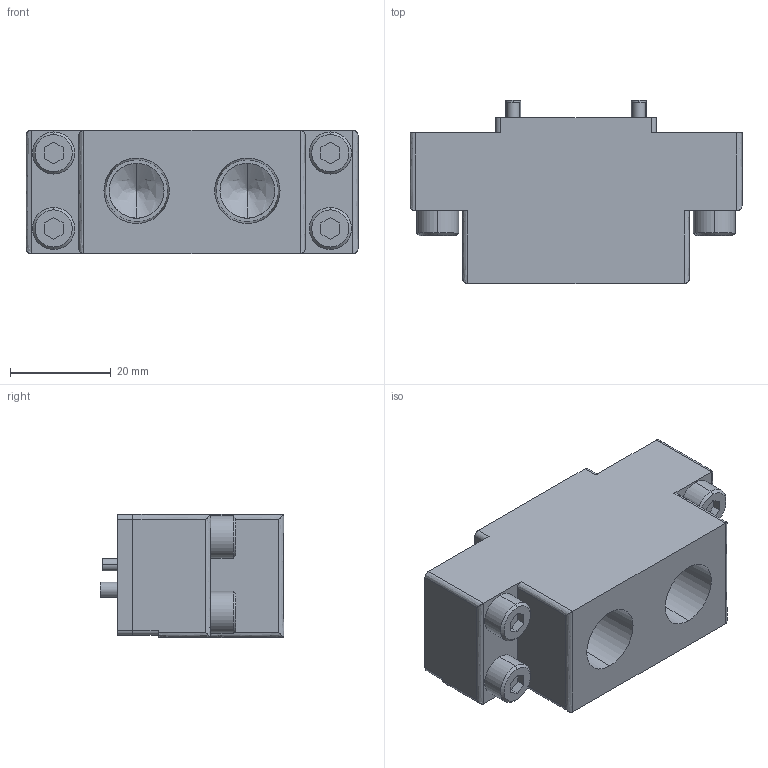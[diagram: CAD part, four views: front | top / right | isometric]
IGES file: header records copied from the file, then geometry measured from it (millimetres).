
Start section: 3D InterOp IGES (v. 2022 1.0.0), Spatial Corp. Copyright (c) 1999-2020.
Global section: file name: KHB-7RS-EP82_ver1.igs; native system: Spatial Corp.; preprocessor: 3D InterOp GENERIC/IGES 3.0; author: Noname; organization: Noname; date: 20260427.101129; units: millimetre
Bounding box: 66 x 36.5 x 24.5 mm (x, y, z)
Surface area: 12960.1 mm2 (no closed solid volume)
Topology: 0 solids, 0 shells, 209 faces, 946 edges, 942 vertices
Faces by surface type: revolution 109, extrusion 100
